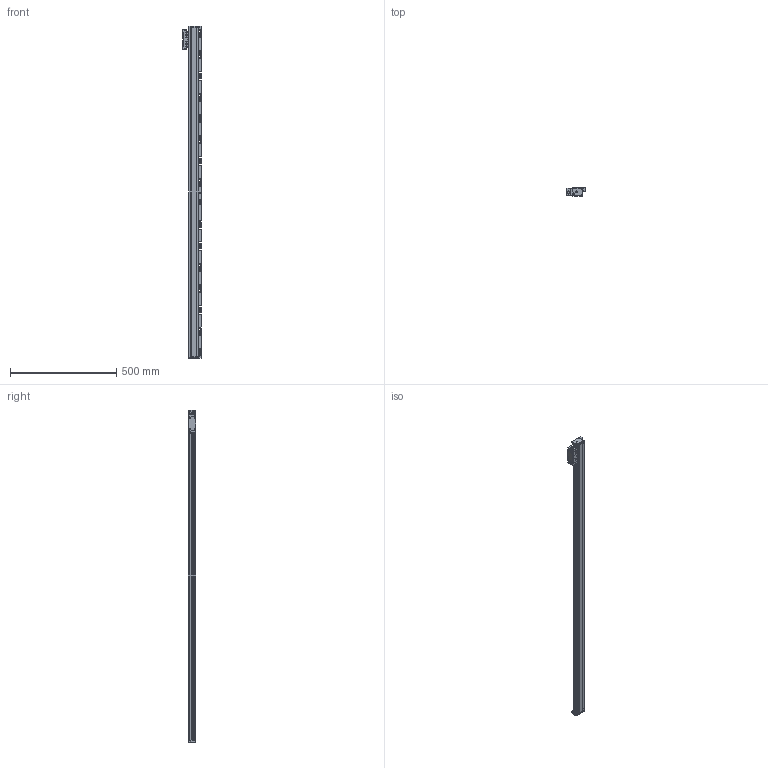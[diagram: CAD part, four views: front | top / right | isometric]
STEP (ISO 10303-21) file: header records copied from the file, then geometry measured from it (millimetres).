
FILE_DESCRIPTION(/* description */ (''),/* implementation_level */ '2;1');
FILE_NAME(/* name */ 'JC21A-1440-1.stp',/* time_stamp */ '2023-12-21T16:41:18+08:00',/* author */ (''),/* organization */ (''),/* preprocessor_version */ 'ST-DEVELOPER v14',/* originating_system */ 'SIEMENS PLM Software NX 8.0',/* authorisation */ '');
FILE_SCHEMA (('CONFIG_CONTROL_DESIGN'));
Length unit declared in the file: millimetre
Products named in the file (1): JC21A-1440-1
Bounding box: 87.5 x 37 x 1561 mm (x, y, z)
Volume: 2462399.5 mm3; surface area: 407070.4 mm2
Topology: 4 solids, 6 shells, 971 faces, 2872 edges, 1909 vertices
Faces by surface type: plane 606, cylinder 333, cone 22, bspline 8, extrusion 2
Full cylindrical faces by diameter (mm): 2.5 x12, 3.3 x6, 3.7 x4, 4.2 x4, 5 x2, 6 x6, 6.6 x2, 6.8 x18, 7 x2, 13.2 x2
Entity records: 33027 total; most frequent: CARTESIAN_POINT 6715, ORIENTED_EDGE 5516, DIRECTION 5446, EDGE_CURVE 2758, VERTEX_POINT 1875, AXIS2_PLACEMENT_3D 1819, VECTOR 1808, LINE 1806
